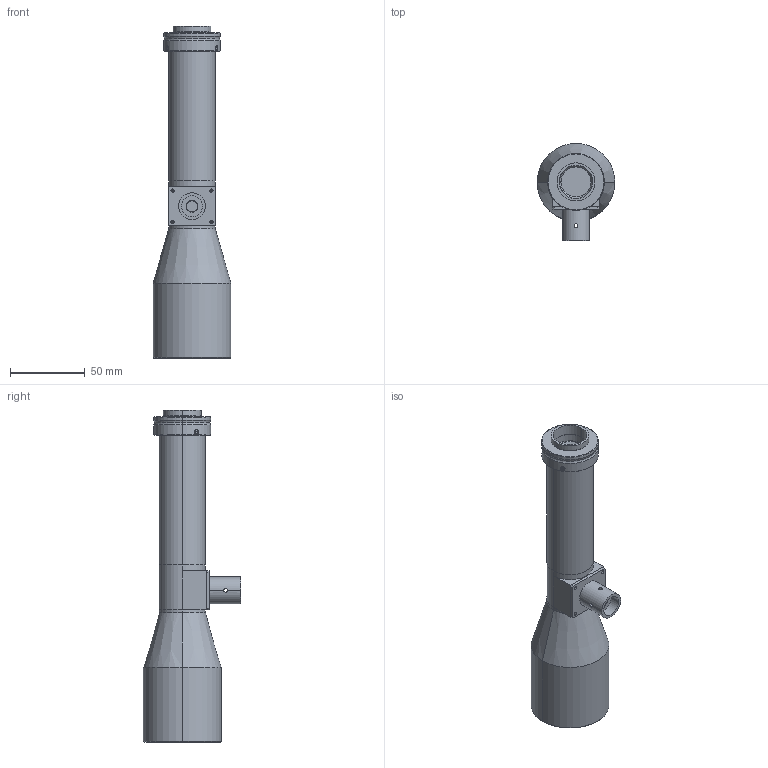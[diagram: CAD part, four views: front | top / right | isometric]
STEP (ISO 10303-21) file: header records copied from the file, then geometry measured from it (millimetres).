
FILE_DESCRIPTION (( 'STEP AP214' ), '1' );
FILE_NAME ('1X300-11T-00 肮粣軞蚾俋倛芞.STEP', '2020-06-10T12:55:54', ( '' ), ( '' ), 'SwSTEP 2.0', 'SolidWorks 2015', '' );
FILE_SCHEMA (( 'AUTOMOTIVE_DESIGN' ));
Length unit declared in the file: millimetre
Products named in the file (1): 1X300-11T-00 肮粣軞蚾俋倛芞
Bounding box: 52 x 65 x 222.05 mm (x, y, z)
Volume: 196228.1 mm3; surface area: 94508.8 mm2
Topology: 25 solids, 25 shells, 407 faces, 884 edges, 562 vertices
Faces by surface type: cylinder 194, plane 137, cone 36, sphere 34, torus 6
Entity records: 16455 total; most frequent: CARTESIAN_POINT 2424, DIRECTION 2118, ORIENTED_EDGE 1740, AXIS2_PLACEMENT_3D 880, EDGE_CURVE 870, VERTEX_POINT 562, EDGE_LOOP 496, CIRCLE 472
